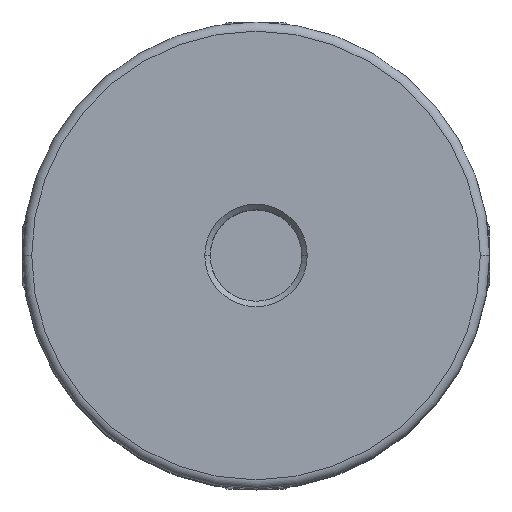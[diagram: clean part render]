
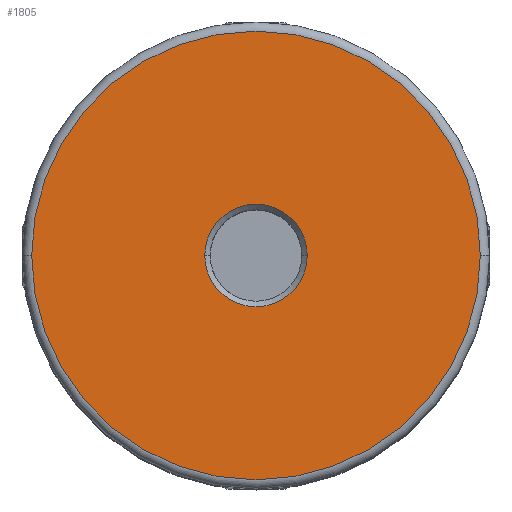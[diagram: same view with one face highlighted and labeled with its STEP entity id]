
A CAD part, top view. The second image highlights one B-rep face of the part: STEP entity #1805.
In plain terms, the highlighted planar face has unit normal (0, 0, 1).
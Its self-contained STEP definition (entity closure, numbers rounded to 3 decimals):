
#273 = EDGE_CURVE ( 'NONE', #3070, #3061, #1368, .T. ) ;
#276 = EDGE_CURVE ( 'NONE', #3143, #5074, #1358, .T. ) ;
#435 = EDGE_CURVE ( 'NONE', #3061, #3070, #1533, .T. ) ;
#493 = AXIS2_PLACEMENT_3D ( 'NONE', #4138, #4143, #4144 ) ;
#674 = AXIS2_PLACEMENT_3D ( 'NONE', #2824, #2825, #2826 ) ;
#743 = AXIS2_PLACEMENT_3D ( 'NONE', #3324, #3323, #3317 ) ;
#932 = EDGE_CURVE ( 'NONE', #5074, #3143, #4303, .T. ) ;
#986 = AXIS2_PLACEMENT_3D ( 'NONE', #3424, #3423, #3422 ) ;
#989 = AXIS2_PLACEMENT_3D ( 'NONE', #3464, #3463, #3462 ) ;
#1358 = CIRCLE ( 'NONE', #986, 2.8 ) ;
#1368 = CIRCLE ( 'NONE', #989, 12.25 ) ;
#1533 = CIRCLE ( 'NONE', #743, 12.25 ) ;
#1805 = ADVANCED_FACE ( 'NONE', ( #5012, #5015 ), #4141, .F. ) ;
#2824 = CARTESIAN_POINT ( 'NONE',  ( 0., 0., 16. ) ) ;
#2825 = DIRECTION ( 'NONE',  ( 0., 0., -1. ) ) ;
#2826 = DIRECTION ( 'NONE',  ( 0., 1., 0. ) ) ;
#3061 = VERTEX_POINT ( 'NONE', #4194 ) ;
#3070 = VERTEX_POINT ( 'NONE', #4203 ) ;
#3143 = VERTEX_POINT ( 'NONE', #6148 ) ;
#3317 = DIRECTION ( 'NONE',  ( -1., 0., 0. ) ) ;
#3323 = DIRECTION ( 'NONE',  ( 0., 0., 1. ) ) ;
#3324 = CARTESIAN_POINT ( 'NONE',  ( 0., 0., 16. ) ) ;
#3422 = DIRECTION ( 'NONE',  ( 0., 1., 0. ) ) ;
#3423 = DIRECTION ( 'NONE',  ( 0., 0., -1. ) ) ;
#3424 = CARTESIAN_POINT ( 'NONE',  ( 0., 0., 16. ) ) ;
#3462 = DIRECTION ( 'NONE',  ( -1., 0., 0. ) ) ;
#3463 = DIRECTION ( 'NONE',  ( 0., 0., 1. ) ) ;
#3464 = CARTESIAN_POINT ( 'NONE',  ( 0., 0., 16. ) ) ;
#4138 = CARTESIAN_POINT ( 'NONE',  ( 0., 0., 16. ) ) ;
#4141 = PLANE ( 'NONE',  #493 ) ;
#4143 = DIRECTION ( 'NONE',  ( 0., 0., -1. ) ) ;
#4144 = DIRECTION ( 'NONE',  ( -1., 0., 0. ) ) ;
#4194 = CARTESIAN_POINT ( 'NONE',  ( 12.25, 0., 16. ) ) ;
#4203 = CARTESIAN_POINT ( 'NONE',  ( -12.25, 0., 16. ) ) ;
#4303 = CIRCLE ( 'NONE', #674, 2.8 ) ;
#5012 = FACE_BOUND ( 'NONE', #5706, .T. ) ;
#5015 = FACE_OUTER_BOUND ( 'NONE', #5881, .T. ) ;
#5074 = VERTEX_POINT ( 'NONE', #6299 ) ;
#5358 = ORIENTED_EDGE ( 'NONE', *, *, #273, .T. ) ;
#5449 = ORIENTED_EDGE ( 'NONE', *, *, #932, .T. ) ;
#5622 = ORIENTED_EDGE ( 'NONE', *, *, #276, .T. ) ;
#5706 = EDGE_LOOP ( 'NONE', ( #5449, #5622 ) ) ;
#5881 = EDGE_LOOP ( 'NONE', ( #5358, #6011 ) ) ;
#6011 = ORIENTED_EDGE ( 'NONE', *, *, #435, .T. ) ;
#6148 = CARTESIAN_POINT ( 'NONE',  ( -2.8, 0., 16. ) ) ;
#6299 = CARTESIAN_POINT ( 'NONE',  ( 2.8, 0., 16. ) ) ;
